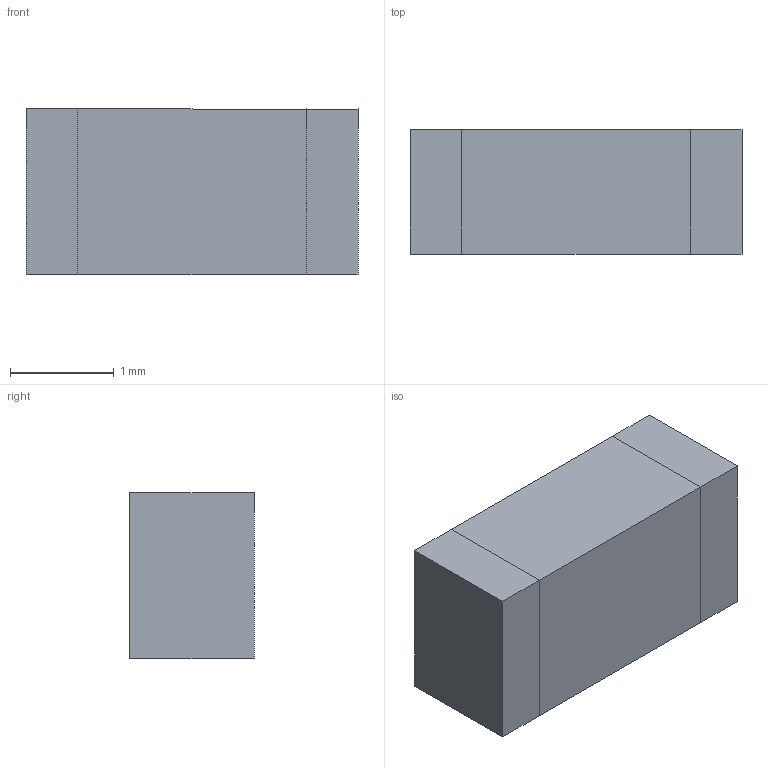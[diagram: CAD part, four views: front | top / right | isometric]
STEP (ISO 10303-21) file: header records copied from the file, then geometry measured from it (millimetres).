
FILE_DESCRIPTION (( 'STEP AP214' ), '1' );
FILE_NAME ('AMCA31-2R800G-S1F-T.STEP', '2014-02-11T05:48:42', ( '' ), ( '' ), 'SwSTEP 2.0', 'SolidWorks 2012', '' );
FILE_SCHEMA (( 'AUTOMOTIVE_DESIGN' ));
Length unit declared in the file: inch
Products named in the file (1): AMCA31-2R800G-S1F-T
Bounding box: 3.2 x 1.2 x 1.6 mm (x, y, z)
Volume: 6.1 mm3; surface area: 21.8 mm2
Topology: 1 solids, 1 shells, 241 faces, 641 edges, 426 vertices
Faces by surface type: plane 148, bspline 93
Entity records: 16032 total; most frequent: CARTESIAN_POINT 7508, ORIENTED_EDGE 1282, DIRECTION 747, EDGE_CURVE 641, VECTOR 449, LINE 449, VERTEX_POINT 426, EDGE_LOOP 265
